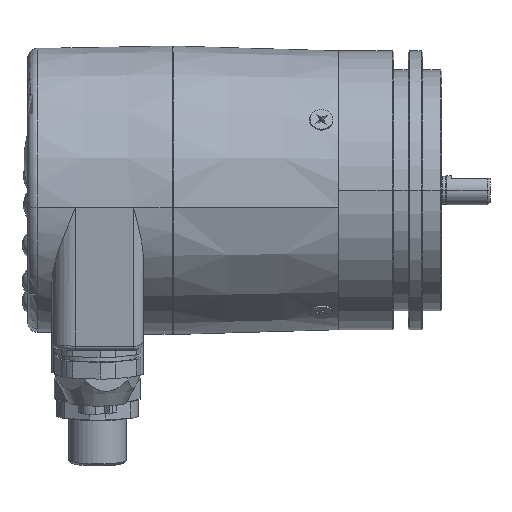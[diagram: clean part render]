
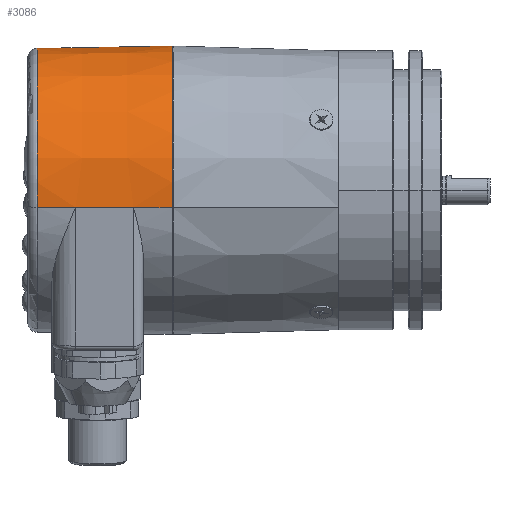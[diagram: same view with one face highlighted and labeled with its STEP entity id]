
A CAD part, top view. The second image highlights one B-rep face of the part: STEP entity #3086.
In plain terms, the highlighted conical face has half-angle 1 degrees and reference radius 30 mm.
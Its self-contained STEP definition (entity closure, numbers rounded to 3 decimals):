
#2882 = ORIENTED_EDGE ( 'NONE', *, *, #2884, .F. ) ;
#2884 = EDGE_CURVE ( 'NONE', #2886, #2956, #8331, .T. ) ;
#2886 = VERTEX_POINT ( 'NONE', #8223 ) ;
#2890 = ORIENTED_EDGE ( 'NONE', *, *, #2893, .T. ) ;
#2893 = EDGE_CURVE ( 'NONE', #3037, #2894, #8145, .T. ) ;
#2894 = VERTEX_POINT ( 'NONE', #8141 ) ;
#2896 = ORIENTED_EDGE ( 'NONE', *, *, #2949, .T. ) ;
#2949 = EDGE_CURVE ( 'NONE', #2894, #2950, #8623, .T. ) ;
#2950 = VERTEX_POINT ( 'NONE', #8628 ) ;
#2953 = ORIENTED_EDGE ( 'NONE', *, *, #2955, .T. ) ;
#2955 = EDGE_CURVE ( 'NONE', #2950, #2956, #8592, .T. ) ;
#2956 = VERTEX_POINT ( 'NONE', #8603 ) ;
#2985 = ORIENTED_EDGE ( 'NONE', *, *, #2987, .F. ) ;
#2987 = EDGE_CURVE ( 'NONE', #2988, #3047, #8866, .T. ) ;
#2988 = VERTEX_POINT ( 'NONE', #8802 ) ;
#2991 = ORIENTED_EDGE ( 'NONE', *, *, #2992, .F. ) ;
#2992 = EDGE_CURVE ( 'NONE', #3034, #2988, #8727, .T. ) ;
#3031 = ORIENTED_EDGE ( 'NONE', *, *, #3033, .T. ) ;
#3033 = EDGE_CURVE ( 'NONE', #3034, #3037, #8958, .T. ) ;
#3034 = VERTEX_POINT ( 'NONE', #8992 ) ;
#3037 = VERTEX_POINT ( 'NONE', #8989 ) ;
#3044 = ORIENTED_EDGE ( 'NONE', *, *, #3045, .F. ) ;
#3045 = EDGE_CURVE ( 'NONE', #3047, #2886, #9014, .T. ) ;
#3047 = VERTEX_POINT ( 'NONE', #9080 ) ;
#3086 = ADVANCED_FACE ( 'NONE', ( #9327 ), #9484, .T. ) ;
#3090 = EDGE_LOOP ( 'NONE', ( #3031, #2890, #2896, #2953, #2882, #3044, #2985, #2991 ) ) ;
#8141 = CARTESIAN_POINT ( 'NONE',  ( -47.087, -3.613, 29.428 ) ) ;
#8142 = DIRECTION ( 'NONE',  ( 1., -0.002, 0.017 ) ) ;
#8143 = VECTOR ( 'NONE', #8142, 1000. ) ;
#8144 = CARTESIAN_POINT ( 'NONE',  ( -27., -3.656, 29.776 ) ) ;
#8145 = LINE ( 'NONE', #8144, #8143 ) ;
#8223 = CARTESIAN_POINT ( 'NONE',  ( -27., 3.656, -29.776 ) ) ;
#8325 = DIRECTION ( 'NONE',  ( 0., 0.122, -0.993 ) ) ;
#8327 = DIRECTION ( 'NONE',  ( 1., 0., 0. ) ) ;
#8329 = CARTESIAN_POINT ( 'NONE',  ( -27., 0., 0. ) ) ;
#8330 = AXIS2_PLACEMENT_3D ( 'NONE', #8329, #8327, #8325 ) ;
#8331 = CIRCLE ( 'NONE', #8330, 30. ) ;
#8592 = LINE ( 'NONE', #8610, #8608 ) ;
#8603 = CARTESIAN_POINT ( 'NONE',  ( -27., -3.656, 29.776 ) ) ;
#8606 = DIRECTION ( 'NONE',  ( 1., -0.002, 0.017 ) ) ;
#8608 = VECTOR ( 'NONE', #8606, 1000. ) ;
#8610 = CARTESIAN_POINT ( 'NONE',  ( -27., -3.656, 29.776 ) ) ;
#8620 = DIRECTION ( 'NONE',  ( 1., -0.002, 0.017 ) ) ;
#8621 = VECTOR ( 'NONE', #8620, 1000. ) ;
#8622 = CARTESIAN_POINT ( 'NONE',  ( -27.523, -3.655, 29.767 ) ) ;
#8623 = LINE ( 'NONE', #8622, #8621 ) ;
#8628 = CARTESIAN_POINT ( 'NONE',  ( -35.035, -3.639, 29.637 ) ) ;
#8718 = VECTOR ( 'NONE', #8871, 1000. ) ;
#8726 = CARTESIAN_POINT ( 'NONE',  ( -27., 3.656, -29.776 ) ) ;
#8727 = LINE ( 'NONE', #8726, #8718 ) ;
#8736 = DIRECTION ( 'NONE',  ( 1., 0.002, -0.017 ) ) ;
#8770 = VECTOR ( 'NONE', #8736, 1000. ) ;
#8802 = CARTESIAN_POINT ( 'NONE',  ( -47.087, 3.613, -29.428 ) ) ;
#8866 = LINE ( 'NONE', #8889, #8770 ) ;
#8871 = DIRECTION ( 'NONE',  ( 1., 0.002, -0.017 ) ) ;
#8889 = CARTESIAN_POINT ( 'NONE',  ( -27.523, 3.655, -29.767 ) ) ;
#8958 = CIRCLE ( 'NONE', #8997, 29.511 ) ;
#8989 = CARTESIAN_POINT ( 'NONE',  ( -55.035, -3.596, 29.291 ) ) ;
#8992 = CARTESIAN_POINT ( 'NONE',  ( -55.035, 3.596, -29.291 ) ) ;
#8994 = DIRECTION ( 'NONE',  ( 0., -0.122, 0.993 ) ) ;
#8995 = DIRECTION ( 'NONE',  ( 1., 0., 0. ) ) ;
#8996 = CARTESIAN_POINT ( 'NONE',  ( -55.035, 0., 0. ) ) ;
#8997 = AXIS2_PLACEMENT_3D ( 'NONE', #8996, #8995, #8994 ) ;
#9014 = LINE ( 'NONE', #9083, #9082 ) ;
#9080 = CARTESIAN_POINT ( 'NONE',  ( -35.035, 3.639, -29.637 ) ) ;
#9081 = DIRECTION ( 'NONE',  ( 1., 0.002, -0.017 ) ) ;
#9082 = VECTOR ( 'NONE', #9081, 1000. ) ;
#9083 = CARTESIAN_POINT ( 'NONE',  ( -27., 3.656, -29.776 ) ) ;
#9327 = FACE_OUTER_BOUND ( 'NONE', #3090, .T. ) ;
#9457 = CARTESIAN_POINT ( 'NONE',  ( -27., 0., 0. ) ) ;
#9484 = CONICAL_SURFACE ( 'NONE', #9485, 30., 0.017 ) ;
#9485 = AXIS2_PLACEMENT_3D ( 'NONE', #9457, #9539, #9646 ) ;
#9539 = DIRECTION ( 'NONE',  ( 1., 0., 0. ) ) ;
#9646 = DIRECTION ( 'NONE',  ( 0., 0.122, -0.993 ) ) ;
